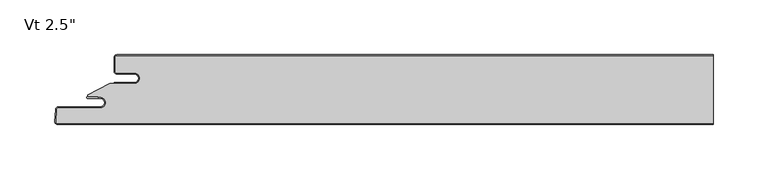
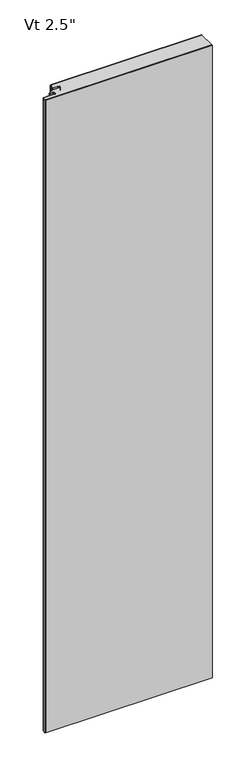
"""IFC4 building model written with IfcOpenShell, lengths in millimetres: plate geometry."""

from ifc_helpers import new_model, si_unit, point, frame_2d, origin, origin_with_axes, place, context, project, spatial, polyline, circle_curve, trimmed, segment, composite_curve, outline, extrude, source, transform, mapped, element, save


def plate_249c2ded(model_context):
    return source(origin(), model_context, "Body", "SweptSolid", [
        extrude(outline(composite_curve([segment(polyline([(-253.7437498, -16.4625), (-269.6187498, -16.4625)]), True, "CONTINUOUS"), segment(trimmed(circle_curve(frame_2d((-269.6187498, -15.08125)), 1.38125), [point((-269.6187498, -16.4625))], [point((-270.9999998, -15.08125))], False, "CARTESIAN"), True, "CONTINUOUS"), segment(polyline([(-270.9999998, -15.08125), (-270.9999998, -2.38125)]), True, "CONTINUOUS"), segment(trimmed(circle_curve(frame_2d((-269.6187498, -2.38125)), 1.38125), [point((-270.9999998, -2.38125))], [point((-269.6187498, -1.0))], False, "CARTESIAN"), True, "CONTINUOUS"), segment(polyline([(-269.6187498, -1.0), (272.8062498, -1.0), (272.8062498, -62.5), (-323.4799534, -62.5)]), True, "CONTINUOUS"), segment(trimmed(circle_curve(frame_2d((-323.4799534, -61.11875)), 1.38125), [point((-323.4799534, -62.5))], [point((-324.8593104, -61.046461))], False, "CARTESIAN"), True, "CONTINUOUS"), segment(polyline([(-324.8593104, -61.046461), (-324.276929, -49.933961)]), True, "CONTINUOUS"), segment(trimmed(circle_curve(frame_2d((-322.8975719, -50.00625)), 1.38125), [point((-324.276929, -49.933961))], [point((-322.8975719, -48.625))], False, "CARTESIAN"), True, "CONTINUOUS"), segment(polyline([(-322.8975719, -48.625), (-284.7142673, -48.625)]), True, "CONTINUOUS"), segment(trimmed(circle_curve(frame_2d((-284.7142673, -43.65625)), 4.96875), [point((-284.7142673, -48.625))], [point((-284.7142673, -38.6875))], True, "CARTESIAN"), True, "CONTINUOUS"), segment(polyline([(-284.7142673, -38.6875), (-286.3017673, -38.89375), (-286.3017673, -38.1), (-295.8124998, -38.1), (-295.8124998, -36.5326309), (-275.9260921, -26.4), (-253.7437498, -26.4)]), True, "CONTINUOUS"), segment(trimmed(circle_curve(frame_2d((-253.7437498, -21.43125)), 4.96875), [point((-253.7437498, -26.4))], [point((-253.7437498, -16.4625))], True, "CARTESIAN"), True, "CONTINUOUS")], self_intersect=False)), origin_with_axes(), (0.0, 0.0, 1.0), 2400.0),
        extrude(outline(composite_curve([segment(polyline([(-271.9999998, -25.4), (-253.7437498, -25.4)]), True, "CONTINUOUS"), segment(trimmed(circle_curve(frame_2d((-253.7437498, -21.43125)), 3.96875), [point((-253.7437498, -25.4))], [point((-253.7437498, -17.4625))], True, "CARTESIAN"), True, "CONTINUOUS"), segment(polyline([(-253.7437498, -17.4625), (-269.6187498, -17.4625)]), True, "CONTINUOUS"), segment(trimmed(circle_curve(frame_2d((-269.6187498, -15.08125)), 2.38125), [point((-269.6187498, -17.4625))], [point((-271.9999998, -15.08125))], False, "CARTESIAN"), True, "CONTINUOUS"), segment(polyline([(-271.9999998, -15.08125), (-271.9999998, -2.38125)]), True, "CONTINUOUS"), segment(trimmed(circle_curve(frame_2d((-269.6187498, -2.38125)), 2.38125), [point((-271.9999998, -2.38125))], [point((-269.6187498, 0.0))], False, "CARTESIAN"), True, "CONTINUOUS"), segment(polyline([(-269.6187498, 0.0), (272.8062498, 0.0), (272.8062498, -1.0), (-269.6187498, -1.0)]), True, "CONTINUOUS"), segment(trimmed(circle_curve(frame_2d((-269.6187498, -2.38125)), 1.38125), [point((-269.6187498, -1.0))], [point((-270.9999998, -2.38125))], True, "CARTESIAN"), True, "CONTINUOUS"), segment(polyline([(-270.9999998, -2.38125), (-270.9999998, -15.08125)]), True, "CONTINUOUS"), segment(trimmed(circle_curve(frame_2d((-269.6187498, -15.08125)), 1.38125), [point((-270.9999998, -15.08125))], [point((-269.6187498, -16.4625))], True, "CARTESIAN"), True, "CONTINUOUS"), segment(polyline([(-269.6187498, -16.4625), (-253.7437498, -16.4625)]), True, "CONTINUOUS"), segment(trimmed(circle_curve(frame_2d((-253.7437498, -21.43125)), 4.96875), [point((-253.7437498, -16.4625))], [point((-253.7437498, -26.4))], False, "CARTESIAN"), True, "CONTINUOUS"), segment(polyline([(-253.7437498, -26.4), (-271.9999998, -26.4), (-271.9999998, -25.4)]), True, "CONTINUOUS")], self_intersect=False)), origin_with_axes(), (0.0, 0.0, 1.0), 2400.0),
        extrude(outline(composite_curve([segment(polyline([(-296.0252048, -38.1), (-286.3017673, -38.1), (-286.3017673, -38.89375), (-284.7142673, -38.6875)]), True, "CONTINUOUS"), segment(trimmed(circle_curve(frame_2d((-284.7142673, -43.65625)), 4.96875), [point((-284.7142673, -38.6875))], [point((-284.7142673, -48.625))], False, "CARTESIAN"), True, "CONTINUOUS"), segment(polyline([(-284.7142673, -48.625), (-322.8975719, -48.625)]), True, "CONTINUOUS"), segment(trimmed(circle_curve(frame_2d((-322.8975719, -50.00625)), 1.38125), [point((-322.8975719, -48.625))], [point((-324.276929, -49.933961))], True, "CARTESIAN"), True, "CONTINUOUS"), segment(polyline([(-324.276929, -49.933961), (-324.8593104, -61.046461)]), True, "CONTINUOUS"), segment(trimmed(circle_curve(frame_2d((-323.4799534, -61.11875)), 1.38125), [point((-324.8593104, -61.046461))], [point((-323.4799534, -62.5))], True, "CARTESIAN"), True, "CONTINUOUS"), segment(polyline([(-323.4799534, -62.5), (272.8062498, -62.5), (272.8062498, -63.5), (-323.4799534, -63.5)]), True, "CONTINUOUS"), segment(trimmed(circle_curve(frame_2d((-323.4799534, -61.11875)), 2.38125), [point((-323.4799534, -63.5))], [point((-325.8579399, -60.994125))], False, "CARTESIAN"), True, "CONTINUOUS"), segment(polyline([(-325.8579399, -60.994125), (-325.2755585, -49.881625)]), True, "CONTINUOUS"), segment(trimmed(circle_curve(frame_2d((-322.8975719, -50.00625)), 2.38125), [point((-325.2755585, -49.881625))], [point((-322.8975719, -47.625))], False, "CARTESIAN"), True, "CONTINUOUS"), segment(polyline([(-322.8975719, -47.625), (-284.7142673, -47.625)]), True, "CONTINUOUS"), segment(trimmed(circle_curve(frame_2d((-284.7142673, -43.65625)), 3.96875), [point((-284.7142673, -47.625))], [point((-284.7142673, -39.6875))], True, "CARTESIAN"), True, "CONTINUOUS"), segment(polyline([(-284.7142673, -39.6875), (-296.0252048, -39.6875)]), True, "CONTINUOUS"), segment(trimmed(circle_curve(frame_2d((-296.0252048, -38.89375)), 0.79375), [point((-296.0252048, -39.6875))], [point((-296.0252048, -38.1))], False, "CARTESIAN"), True, "CONTINUOUS")], self_intersect=False)), origin_with_axes(), (0.0, 0.0, 1.0), 2400.0),
    ])


if __name__ == "__main__":
    model = new_model("IFC4")
    model_context = context("Model", 3, world=origin())
    ifc_project = project(units=[si_unit("LENGTHUNIT", "METRE", prefix="MILLI")], contexts=[model_context])
    site = spatial("IfcSite", under=ifc_project)
    building = spatial("IfcBuilding", under=site)
    placement = place(None, origin())
    plate_shape = plate_249c2ded(model_context)
    element("IfcPlate", 1, ObjectType="KIP-36-DWHR-R19-CP-Vt-F : Vt 2.5\"", at=placement, inside=building, context=model_context, shape_type="MappedRepresentation", body=[
        mapped(plate_shape, transform((0.0, 0.0, 0.0), x_axis=(1.0, 0.0, 0.0), y_axis=(0.0, 1.0, 0.0), z_axis=(0.0, 0.0, 1.0))),
    ])
    save(model, "model.ifc")
